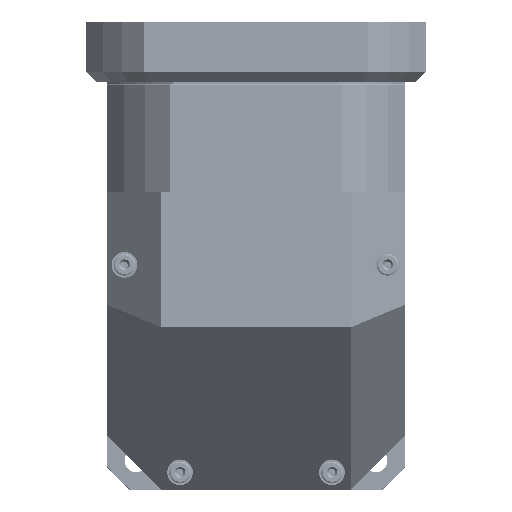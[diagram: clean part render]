
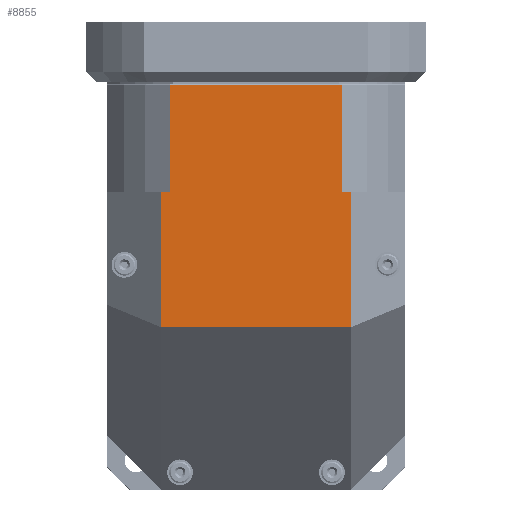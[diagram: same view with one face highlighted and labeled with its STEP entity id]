
A CAD part, front view. The second image highlights one B-rep face of the part: STEP entity #8855.
In plain terms, the highlighted planar face has unit normal (0, -1, 0).
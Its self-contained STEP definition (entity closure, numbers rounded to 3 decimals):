
#8784=CARTESIAN_POINT('',(-110.,-110.0,189.5));
#8785=DIRECTION('',(0.0,-1.0,0.0));
#8786=DIRECTION('',(-1.0,0.0,0.0));
#8787=AXIS2_PLACEMENT_3D('',#8784,#8785,#8786);
#8788=PLANE('',#8787);
#8789=CARTESIAN_POINT('',(63.474,-110.0,110.));
#8790=VERTEX_POINT('',#8789);
#8791=CARTESIAN_POINT('',(63.474,-110.,188.5));
#8792=VERTEX_POINT('',#8791);
#8793=CARTESIAN_POINT('',(63.474,-110.0,110.));
#8794=DIRECTION('',(0.0,0.0,1.0));
#8795=VECTOR('',#8794,78.5);
#8796=LINE('',#8793,#8795);
#8797=EDGE_CURVE('',#8790,#8792,#8796,.T.);
#8798=ORIENTED_EDGE('',*,*,#8797,.T.);
#8799=CARTESIAN_POINT('',(-63.474,-110.,188.5));
#8800=VERTEX_POINT('',#8799);
#8801=CARTESIAN_POINT('',(63.474,-110.0,188.5));
#8802=DIRECTION('',(-1.0,0.0,0.0));
#8803=VECTOR('',#8802,126.949);
#8804=LINE('',#8801,#8803);
#8805=EDGE_CURVE('',#8792,#8800,#8804,.T.);
#8806=ORIENTED_EDGE('',*,*,#8805,.T.);
#8807=CARTESIAN_POINT('',(-63.474,-110.0,110.));
#8808=VERTEX_POINT('',#8807);
#8809=CARTESIAN_POINT('',(-63.474,-110.0,188.5));
#8810=DIRECTION('',(0.0,0.0,-1.0));
#8811=VECTOR('',#8810,78.5);
#8812=LINE('',#8809,#8811);
#8813=EDGE_CURVE('',#8800,#8808,#8812,.T.);
#8814=ORIENTED_EDGE('',*,*,#8813,.T.);
#8815=CARTESIAN_POINT('',(-70.,-110.0,110.));
#8816=VERTEX_POINT('',#8815);
#8817=CARTESIAN_POINT('',(-70.,-110.0,110.));
#8818=DIRECTION('',(1.0,0.0,0.0));
#8819=VECTOR('',#8818,6.526);
#8820=LINE('',#8817,#8819);
#8821=EDGE_CURVE('',#8816,#8808,#8820,.T.);
#8822=ORIENTED_EDGE('',*,*,#8821,.F.);
#8823=CARTESIAN_POINT('',(-70.,-110.0,10.));
#8824=VERTEX_POINT('',#8823);
#8825=CARTESIAN_POINT('',(-70.,-110.0,110.));
#8826=DIRECTION('',(0.0,0.0,-1.0));
#8827=VECTOR('',#8826,100.);
#8828=LINE('',#8825,#8827);
#8829=EDGE_CURVE('',#8816,#8824,#8828,.T.);
#8830=ORIENTED_EDGE('',*,*,#8829,.T.);
#8831=CARTESIAN_POINT('',(70.,-110.0,10.));
#8832=VERTEX_POINT('',#8831);
#8833=CARTESIAN_POINT('',(-70.,-110.0,10.));
#8834=DIRECTION('',(1.0,0.0,0.0));
#8835=VECTOR('',#8834,140.);
#8836=LINE('',#8833,#8835);
#8837=EDGE_CURVE('',#8824,#8832,#8836,.T.);
#8838=ORIENTED_EDGE('',*,*,#8837,.T.);
#8839=CARTESIAN_POINT('',(70.,-110.0,110.));
#8840=VERTEX_POINT('',#8839);
#8841=CARTESIAN_POINT('',(70.,-110.0,10.));
#8842=DIRECTION('',(0.0,0.0,1.0));
#8843=VECTOR('',#8842,100.);
#8844=LINE('',#8841,#8843);
#8845=EDGE_CURVE('',#8832,#8840,#8844,.T.);
#8846=ORIENTED_EDGE('',*,*,#8845,.T.);
#8847=CARTESIAN_POINT('',(63.474,-110.0,110.));
#8848=DIRECTION('',(1.0,0.0,0.0));
#8849=VECTOR('',#8848,6.526);
#8850=LINE('',#8847,#8849);
#8851=EDGE_CURVE('',#8790,#8840,#8850,.T.);
#8852=ORIENTED_EDGE('',*,*,#8851,.F.);
#8853=EDGE_LOOP('',(#8798,#8806,#8814,#8822,#8830,#8838,#8846,#8852));
#8854=FACE_OUTER_BOUND('',#8853,.T.);
#8855=ADVANCED_FACE('',(#8854),#8788,.T.);
